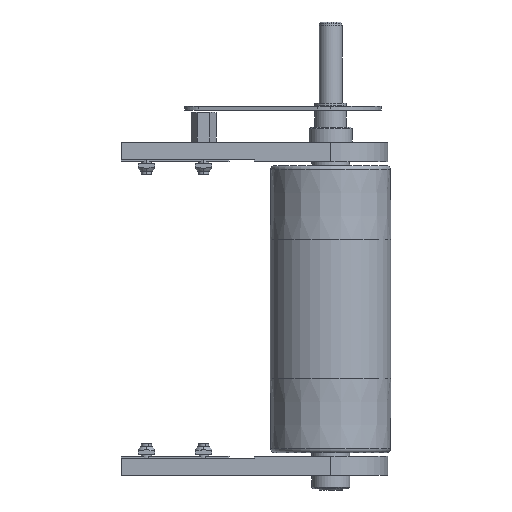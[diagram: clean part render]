
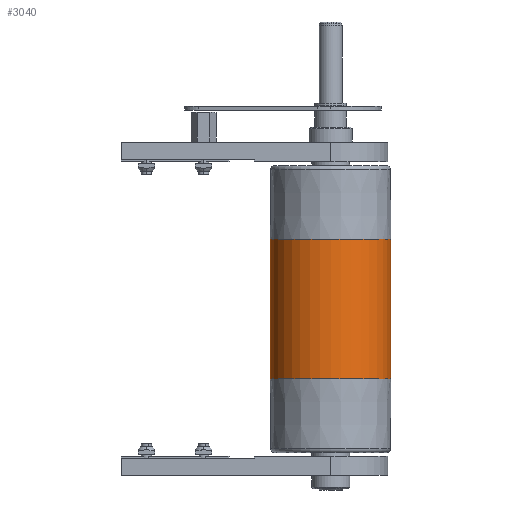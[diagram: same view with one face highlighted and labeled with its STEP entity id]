
A CAD part, front view. The second image highlights one B-rep face of the part: STEP entity #3040.
In plain terms, the highlighted cylindrical face has radius 47.5 mm (diameter 95 mm), a partial arc.
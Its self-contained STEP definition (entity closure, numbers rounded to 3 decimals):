
#806 = AXIS2_PLACEMENT_3D ( 'NONE', #9940, #1823, #9881 ) ;
#1426 = CARTESIAN_POINT ( 'NONE',  ( 55., 0., 0. ) ) ;
#1509 = EDGE_CURVE ( 'NONE', #17106, #10069, #10871, .T. ) ;
#1513 = EDGE_LOOP ( 'NONE', ( #16822, #6962, #13244, #2438 ) ) ;
#1591 = DIRECTION ( 'NONE',  ( -1., 0., 0. ) ) ;
#1823 = DIRECTION ( 'NONE',  ( -1., 0., 0. ) ) ;
#2287 = CARTESIAN_POINT ( 'NONE',  ( 55., 0., -47.5 ) ) ;
#2438 = ORIENTED_EDGE ( 'NONE', *, *, #5709, .T. ) ;
#2769 = DIRECTION ( 'NONE',  ( 1., 0., 0. ) ) ;
#2976 = DIRECTION ( 'NONE',  ( 1., 0., 0. ) ) ;
#3008 = CARTESIAN_POINT ( 'NONE',  ( -55., 0., 47.5 ) ) ;
#3040 = ADVANCED_FACE ( 'NONE', ( #10825 ), #10316, .T. ) ;
#3642 = CARTESIAN_POINT ( 'NONE',  ( 55., 0., 47.5 ) ) ;
#4200 = DIRECTION ( 'NONE',  ( -1., 0., 0. ) ) ;
#5709 = EDGE_CURVE ( 'NONE', #19483, #10069, #9593, .T. ) ;
#6962 = ORIENTED_EDGE ( 'NONE', *, *, #18454, .F. ) ;
#8039 = CARTESIAN_POINT ( 'NONE',  ( 110., 0., 47.5 ) ) ;
#8205 = LINE ( 'NONE', #8039, #19963 ) ;
#9593 = CIRCLE ( 'NONE', #18766, 47.5 ) ;
#9881 = DIRECTION ( 'NONE',  ( 0., 0., 1. ) ) ;
#9940 = CARTESIAN_POINT ( 'NONE',  ( 110., 0., 0. ) ) ;
#10067 = CARTESIAN_POINT ( 'NONE',  ( -55., 0., -47.5 ) ) ;
#10069 = VERTEX_POINT ( 'NONE', #10067 ) ;
#10316 = CYLINDRICAL_SURFACE ( 'NONE', #806, 47.5 ) ;
#10825 = FACE_OUTER_BOUND ( 'NONE', #1513, .T. ) ;
#10871 = LINE ( 'NONE', #13535, #19645 ) ;
#12576 = CIRCLE ( 'NONE', #13599, 47.5 ) ;
#13244 = ORIENTED_EDGE ( 'NONE', *, *, #14528, .T. ) ;
#13535 = CARTESIAN_POINT ( 'NONE',  ( 110., 0., -47.5 ) ) ;
#13599 = AXIS2_PLACEMENT_3D ( 'NONE', #1426, #2976, #19001 ) ;
#14198 = DIRECTION ( 'NONE',  ( 0., 0., -1. ) ) ;
#14528 = EDGE_CURVE ( 'NONE', #19210, #19483, #8205, .T. ) ;
#15431 = CARTESIAN_POINT ( 'NONE',  ( -55., 0., 0. ) ) ;
#16822 = ORIENTED_EDGE ( 'NONE', *, *, #1509, .F. ) ;
#17106 = VERTEX_POINT ( 'NONE', #2287 ) ;
#18454 = EDGE_CURVE ( 'NONE', #19210, #17106, #12576, .T. ) ;
#18766 = AXIS2_PLACEMENT_3D ( 'NONE', #15431, #2769, #14198 ) ;
#19001 = DIRECTION ( 'NONE',  ( 0., 0., -1. ) ) ;
#19210 = VERTEX_POINT ( 'NONE', #3642 ) ;
#19483 = VERTEX_POINT ( 'NONE', #3008 ) ;
#19645 = VECTOR ( 'NONE', #4200, 1000. ) ;
#19963 = VECTOR ( 'NONE', #1591, 1000. ) ;
